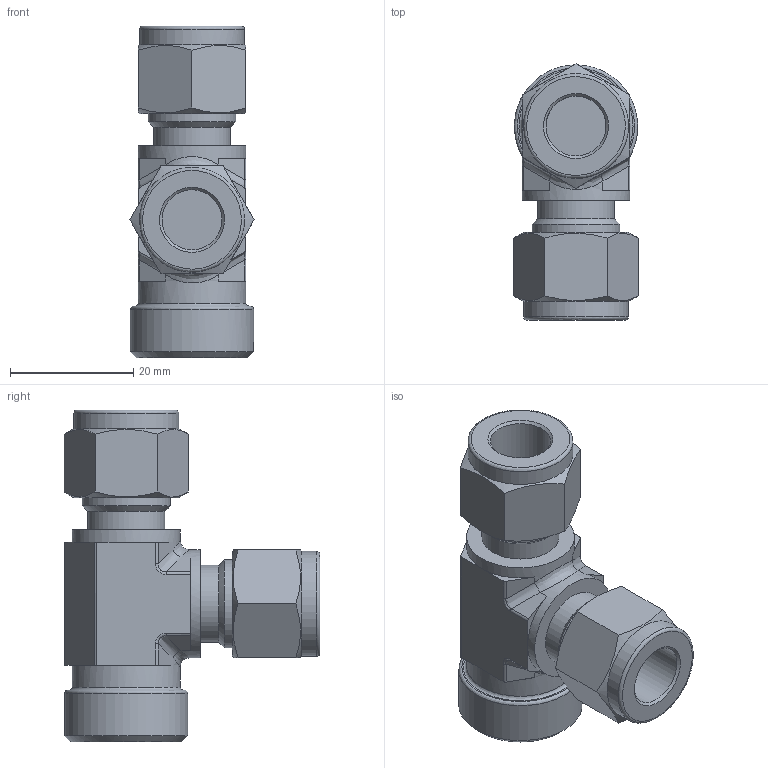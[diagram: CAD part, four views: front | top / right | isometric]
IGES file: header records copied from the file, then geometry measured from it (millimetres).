
Global section: file name: SFRT-6-4N; native system: Autodesk Inventor 2016; preprocessor: unknown; author: DESIGNPC2; date: 20151031.102452; units: millimetre
Bounding box: 20.16 x 41.5 x 53.81 mm (x, y, z)
Volume: 14221 mm3; surface area: 7182 mm2
Topology: 1 solids, 1 shells, 113 faces, 287 edges, 188 vertices
Faces by surface type: bspline 113
